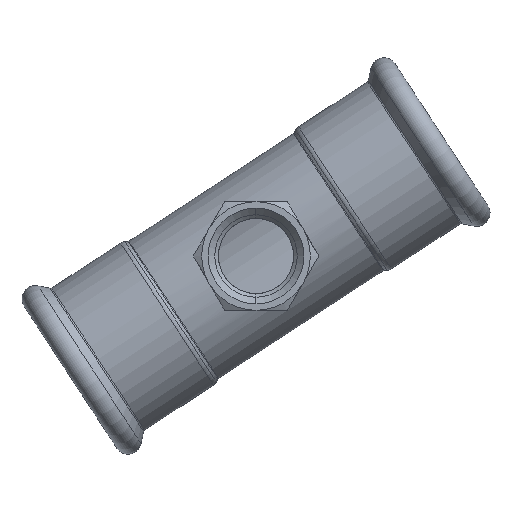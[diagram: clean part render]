
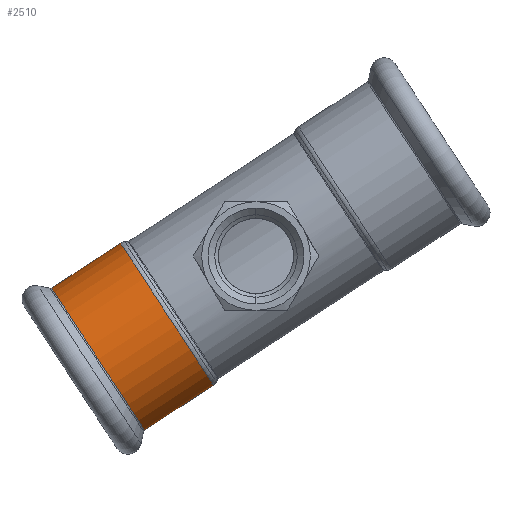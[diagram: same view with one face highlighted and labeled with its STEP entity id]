
A CAD part, front view. The second image highlights one B-rep face of the part: STEP entity #2510.
In plain terms, the highlighted cylindrical face has radius 19.15 mm (diameter 38.3 mm), a partial arc.
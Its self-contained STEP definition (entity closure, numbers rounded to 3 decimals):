
#200 = CIRCLE ( 'NONE', #406, 19.15 ) ;
#212 = DIRECTION ( 'NONE',  ( -1., 0., 0. ) ) ;
#216 = CARTESIAN_POINT ( 'NONE',  ( 27.146, 0., -19.15 ) ) ;
#228 = DIRECTION ( 'NONE',  ( 0., 0., 1. ) ) ;
#236 = DIRECTION ( 'NONE',  ( -1., 0., 0. ) ) ;
#255 = VERTEX_POINT ( 'NONE', #323 ) ;
#323 = CARTESIAN_POINT ( 'NONE',  ( 42.55, 0., -19.15 ) ) ;
#406 = AXIS2_PLACEMENT_3D ( 'NONE', #3002, #1111, #2070 ) ;
#466 = EDGE_CURVE ( 'NONE', #1532, #255, #200, .T. ) ;
#573 = CARTESIAN_POINT ( 'NONE',  ( 24., 0., -19.15 ) ) ;
#685 = ORIENTED_EDGE ( 'NONE', *, *, #3173, .F. ) ;
#795 = CARTESIAN_POINT ( 'NONE',  ( 27.146, 0., 0. ) ) ;
#1044 = VECTOR ( 'NONE', #212, 1000. ) ;
#1111 = DIRECTION ( 'NONE',  ( -1., 0., 0. ) ) ;
#1356 = CARTESIAN_POINT ( 'NONE',  ( 42.55, 0., 19.15 ) ) ;
#1532 = VERTEX_POINT ( 'NONE', #1356 ) ;
#1777 = CARTESIAN_POINT ( 'NONE',  ( 24., 0., 0. ) ) ;
#1811 = VECTOR ( 'NONE', #236, 1000. ) ;
#1848 = CYLINDRICAL_SURFACE ( 'NONE', #3100, 19.15 ) ;
#1859 = ORIENTED_EDGE ( 'NONE', *, *, #4097, .T. ) ;
#2013 = DIRECTION ( 'NONE',  ( 0., 0., 1. ) ) ;
#2023 = VERTEX_POINT ( 'NONE', #573 ) ;
#2043 = CIRCLE ( 'NONE', #3318, 19.15 ) ;
#2048 = LINE ( 'NONE', #216, #1811 ) ;
#2065 = DIRECTION ( 'NONE',  ( -1., 0., 0. ) ) ;
#2070 = DIRECTION ( 'NONE',  ( 0., 0., 1. ) ) ;
#2080 = CARTESIAN_POINT ( 'NONE',  ( 27.146, 0., 19.15 ) ) ;
#2212 = VERTEX_POINT ( 'NONE', #2866 ) ;
#2510 = ADVANCED_FACE ( 'NONE', ( #3662 ), #1848, .T. ) ;
#2519 = EDGE_LOOP ( 'NONE', ( #3582, #1859, #685, #3768 ) ) ;
#2866 = CARTESIAN_POINT ( 'NONE',  ( 24., 0., 19.15 ) ) ;
#3002 = CARTESIAN_POINT ( 'NONE',  ( 42.55, 0., 0. ) ) ;
#3100 = AXIS2_PLACEMENT_3D ( 'NONE', #795, #2065, #2013 ) ;
#3173 = EDGE_CURVE ( 'NONE', #2212, #2023, #2043, .T. ) ;
#3232 = EDGE_CURVE ( 'NONE', #1532, #2212, #3365, .T. ) ;
#3318 = AXIS2_PLACEMENT_3D ( 'NONE', #1777, #3998, #228 ) ;
#3365 = LINE ( 'NONE', #2080, #1044 ) ;
#3582 = ORIENTED_EDGE ( 'NONE', *, *, #466, .T. ) ;
#3662 = FACE_OUTER_BOUND ( 'NONE', #2519, .T. ) ;
#3768 = ORIENTED_EDGE ( 'NONE', *, *, #3232, .F. ) ;
#3998 = DIRECTION ( 'NONE',  ( -1., 0., 0. ) ) ;
#4097 = EDGE_CURVE ( 'NONE', #255, #2023, #2048, .T. ) ;
